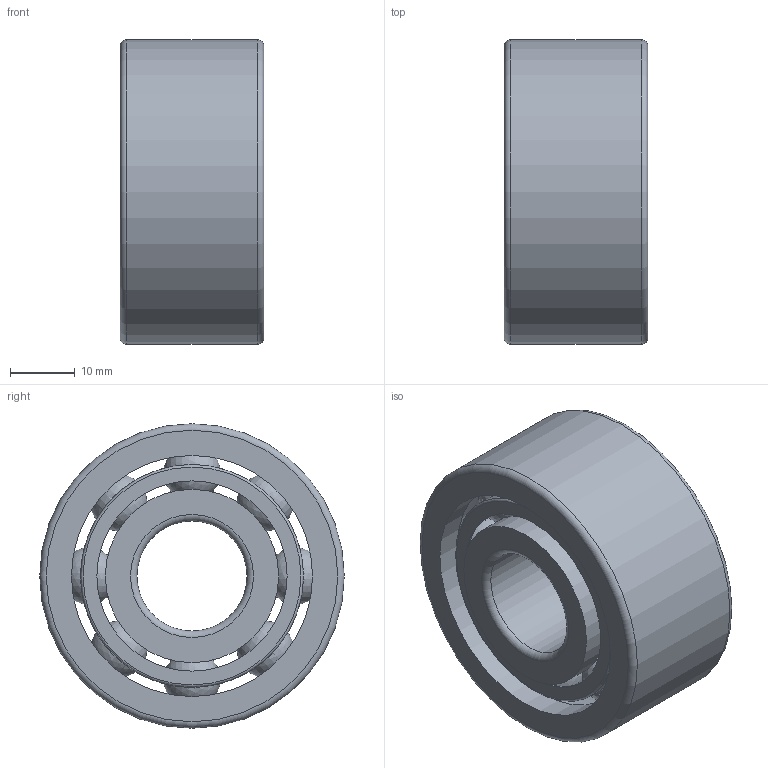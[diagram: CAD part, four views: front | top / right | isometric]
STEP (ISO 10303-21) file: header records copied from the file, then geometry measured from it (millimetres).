
FILE_DESCRIPTION(/* description */ (''),/* implementation_level */ '2;1');
FILE_NAME(/* name */ 'D:\moje\parametrické\32--,33--\33--\33--\3303.stp',/* time_stamp */ '2016-03-17T11:18:25+01:00',/* author */ ('OUBALASKO'),/* organization */ (''),/* preprocessor_version */ 'ST-DEVELOPER v15.2',/* originating_system */ 'Autodesk Inventor 2014',/* authorisation */ '');
FILE_SCHEMA (('AUTOMOTIVE_DESIGN { 1 0 10303 214 3 1 1 }'));
Length unit declared in the file: millimetre
Products named in the file (5): 3303-02; 3303-ball; 3303-cage; 3303-01; 3303
Bounding box: 22.2 x 47 x 47 mm (x, y, z)
Volume: 24251.6 mm3; surface area: 17879.3 mm2
Topology: 20 solids, 20 shells, 82 faces, 206 edges, 132 vertices
Faces by surface type: sphere 32, plane 24, cylinder 14, torus 12
Full cylindrical faces by diameter (mm): 17 x1, 26.761 x3, 29.381 x2, 33.746 x2, 34.346 x2, 37.239 x3, 47 x1
Entity records: 1806 total; most frequent: CARTESIAN_POINT 684, DIRECTION 256, ORIENTED_EDGE 150, AXIS2_PLACEMENT_3D 128, EDGE_CURVE 75, EDGE_LOOP 71, VERTEX_POINT 60, CIRCLE 59
